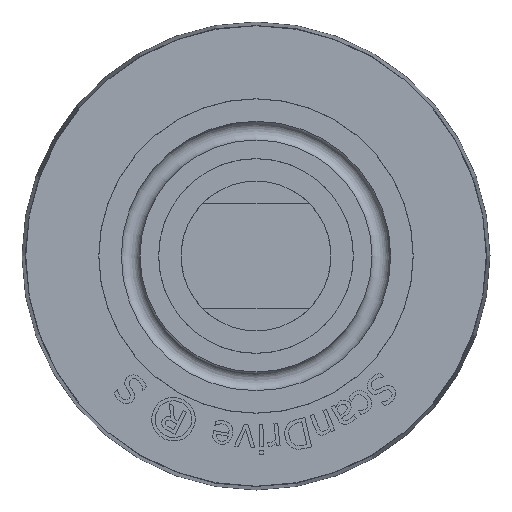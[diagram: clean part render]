
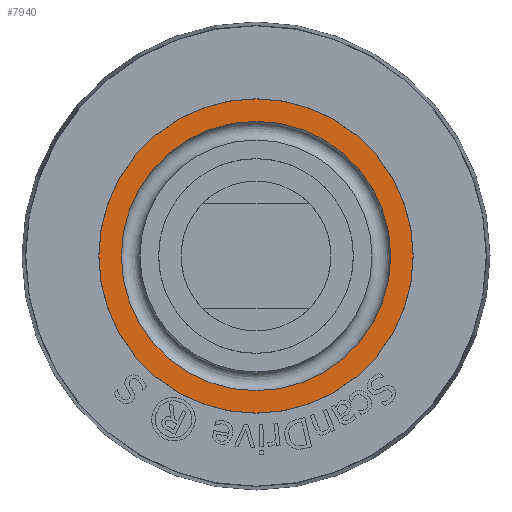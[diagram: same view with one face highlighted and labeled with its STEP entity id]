
A CAD part, left-side view. The second image highlights one B-rep face of the part: STEP entity #7940.
In plain terms, the highlighted planar face has unit normal (-1, 0, 0).
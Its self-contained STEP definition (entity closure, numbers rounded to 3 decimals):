
#60=CIRCLE('',#8324,17.99);
#61=CIRCLE('',#8326,20.99);
#151=FACE_BOUND('',#1490,.T.);
#1002=FACE_OUTER_BOUND('',#1489,.T.);
#1489=EDGE_LOOP('',(#6306));
#1490=EDGE_LOOP('',(#6307));
#3608=VERTEX_POINT('',#12298);
#3609=VERTEX_POINT('',#12301);
#4583=EDGE_CURVE('',#3608,#3608,#60,.T.);
#4584=EDGE_CURVE('',#3609,#3609,#61,.T.);
#6306=ORIENTED_EDGE('',*,*,#4584,.T.);
#6307=ORIENTED_EDGE('',*,*,#4583,.F.);
#7598=PLANE('',#8325);
#7940=ADVANCED_FACE('',(#1002,#151),#7598,.T.);
#8324=AXIS2_PLACEMENT_3D('',#12299,#9143,#9144);
#8325=AXIS2_PLACEMENT_3D('',#12300,#9145,#9146);
#8326=AXIS2_PLACEMENT_3D('',#12302,#9147,#9148);
#9143=DIRECTION('center_axis',(-1.,0.,0.));
#9144=DIRECTION('ref_axis',(0.,0.,1.));
#9145=DIRECTION('center_axis',(-1.,0.,0.));
#9146=DIRECTION('ref_axis',(0.,0.,1.));
#9147=DIRECTION('center_axis',(-1.,0.,0.));
#9148=DIRECTION('ref_axis',(0.,0.,1.));
#12298=CARTESIAN_POINT('',(-250.,0.,17.99));
#12299=CARTESIAN_POINT('Origin',(-250.,0.,0.));
#12300=CARTESIAN_POINT('Origin',(-250.,0.,17.99));
#12301=CARTESIAN_POINT('',(-250.,0.,20.99));
#12302=CARTESIAN_POINT('Origin',(-250.,0.,0.));
